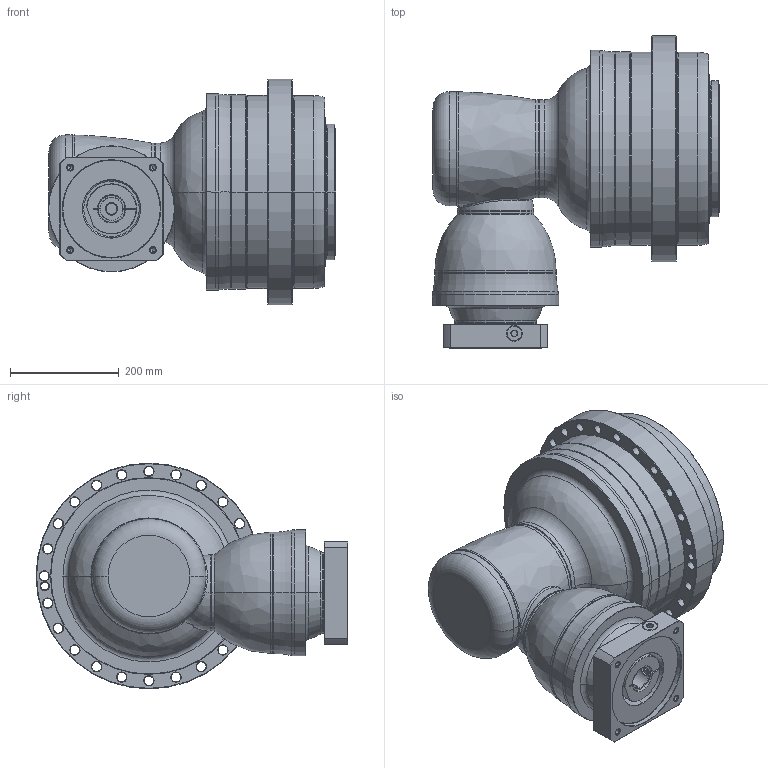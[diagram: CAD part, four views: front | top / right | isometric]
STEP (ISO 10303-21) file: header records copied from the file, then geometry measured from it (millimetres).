
FILE_DESCRIPTION((''),'2;1');
FILE_NAME('APK355_4ST_42-P0409A00201_ASM','2018-10-04T',('D00080'),(''),'PRO/ENGINEER BY PARAMETRIC TECHNOLOGY CORPORATION, 2015240','PRO/ENGINEER BY PARAMETRIC TECHNOLOGY CORPORATION, 2015240','');
FILE_SCHEMA(('CONFIG_CONTROL_DESIGN'));
Length unit declared in the file: millimetre
Products named in the file (13): P1008600002; P1315600001; P1007601001; P1317610501; P1821110001; P0276101003; P0357101103; P1222100001; P0503A00012; P0912505001; P0409A00201; 21711422019; APK355_4ST_42-P0409A00201_ASM
Assembly tree (12 placements, depth 2):
  APK355_4ST_42-P0409A00201_ASM
    P1008600002
    P1315600001
    P1007601001
    P1317610501
    P1821110001
    P0276101003
    P0357101103
    P1222100001
    P0503A00012
    P0912505001
    P0409A00201
    21711422019
Bounding box: 528 x 573.5 x 415 mm (x, y, z)
Volume: 44267659 mm3; surface area: 2174375.8 mm2
Topology: 13 solids, 40 shells, 817 faces, 1851 edges, 1109 vertices
Faces by surface type: cylinder 321, cone 234, plane 131, torus 96, bspline 33, sphere 2
Entity records: 29322 total; most frequent: CARTESIAN_POINT 10338, DIRECTION 4381, ORIENTED_EDGE 3504, AXIS2_PLACEMENT_3D 1880, EDGE_CURVE 1807, VERTEX_POINT 1109, CIRCLE 1059, EDGE_LOOP 978
